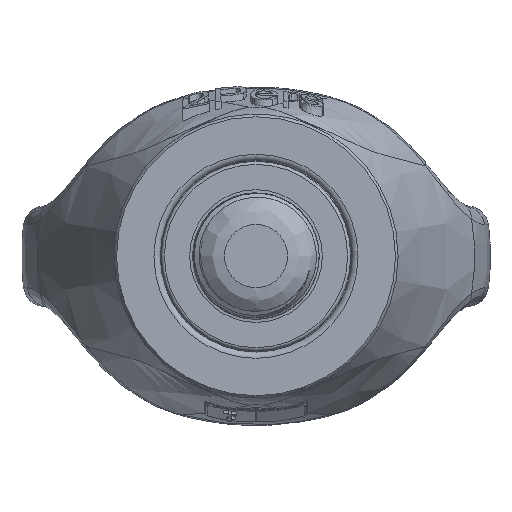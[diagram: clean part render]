
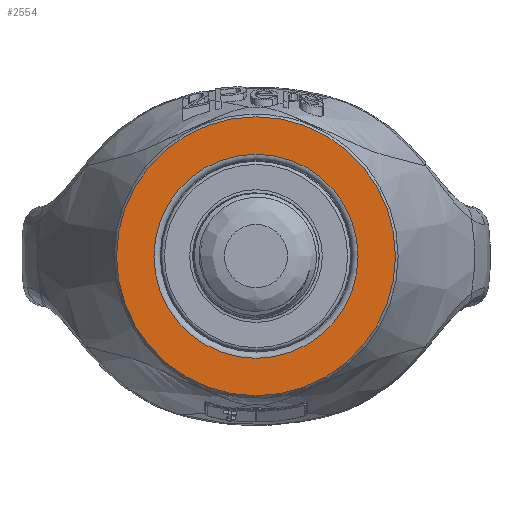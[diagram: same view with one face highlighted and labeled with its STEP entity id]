
A CAD part, front view. The second image highlights one B-rep face of the part: STEP entity #2554.
In plain terms, the highlighted planar face has unit normal (0, -1, 0) as drawn and (0, 0, -1) by its records, which use the part's own axes.
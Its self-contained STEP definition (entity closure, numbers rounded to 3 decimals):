
#2554=ADVANCED_FACE('',(#3401,#3402),#3026,.T.);
#3026=PLANE('',#17840);
#3100=CIRCLE('',#17451,22.072);
#3181=CIRCLE('',#17839,16.15);
#3401=FACE_BOUND('',#4353,.T.);
#3402=FACE_BOUND('',#4354,.T.);
#4353=EDGE_LOOP('',(#10102));
#4354=EDGE_LOOP('',(#10103));
#10102=ORIENTED_EDGE('',*,*,#14270,.T.);
#10103=ORIENTED_EDGE('',*,*,#12613,.F.);
#10891=VERTEX_POINT('',#25860);
#11975=VERTEX_POINT('',#35419);
#12613=EDGE_CURVE('',#10891,#10891,#3100,.T.);
#14270=EDGE_CURVE('',#11975,#11975,#3181,.T.);
#17451=AXIS2_PLACEMENT_3D('',#25859,#18706,#18707);
#17839=AXIS2_PLACEMENT_3D('',#35418,#20678,#20679);
#17840=AXIS2_PLACEMENT_3D('',#35420,#20680,#20681);
#18706=DIRECTION('',(0.,0.,1.));
#18707=DIRECTION('',(-1.,0.,0.));
#20678=DIRECTION('',(0.,0.,1.));
#20679=DIRECTION('',(-1.,0.,0.));
#20680=DIRECTION('',(0.,0.,-1.));
#20681=DIRECTION('',(1.,0.,0.));
#25859=CARTESIAN_POINT('',(0.,0.,12.));
#25860=CARTESIAN_POINT('',(-22.072,0.,12.));
#35418=CARTESIAN_POINT('',(0.,0.,12.));
#35419=CARTESIAN_POINT('',(-16.15,0.,12.));
#35420=CARTESIAN_POINT('',(15.15,0.,12.));
